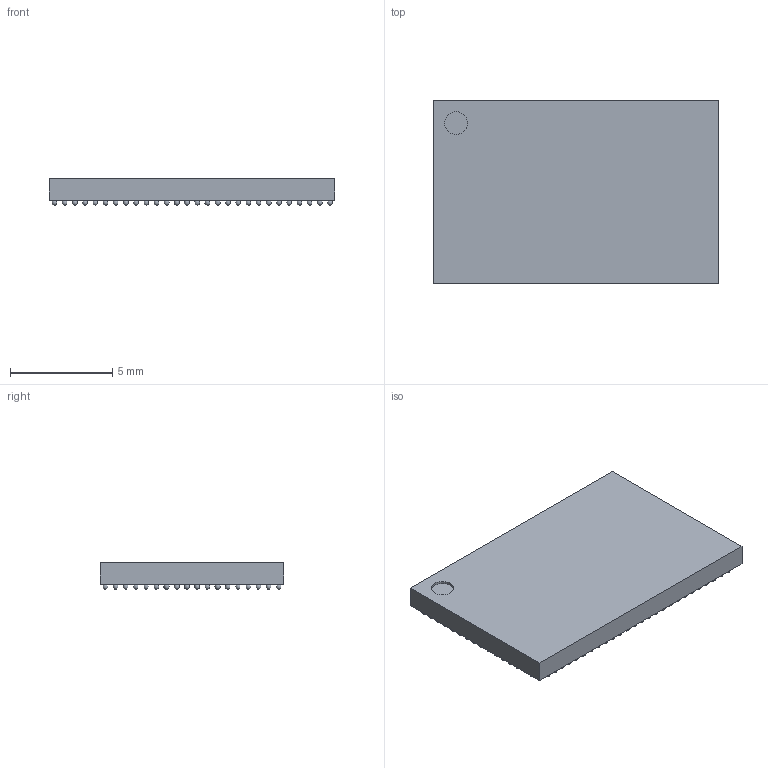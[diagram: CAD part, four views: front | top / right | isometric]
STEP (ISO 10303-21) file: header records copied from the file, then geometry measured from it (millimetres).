
FILE_DESCRIPTION(('FreeCAD Model'),'2;1');
FILE_NAME('/var/www/3D/0T/21391454.1.1.stp','2026-01-13T06:24:49',( 'Author'),(''),'Open CASCADE STEP processor 6.9','FreeCAD','Unknown' );
FILE_SCHEMA(('AUTOMOTIVE_DESIGN { 1 0 10303 214 1 1 1 1 }'));
Length unit declared in the file: millimetre
Products named in the file (502): ASSEMBLY; A2; A3; A4; A5; A6; A7; A8; A9; A10; A11; A12; A13; A14; A15; A16; A17; A18; A19; A20; A21; A22; A23; A24; A25; A26; A27; B1; B2; B3; B4; B5; B6; B7; B8; B9; B10; B11; B12; B13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
Assembly tree (501 placements, depth 2):
  ASSEMBLY
    A2
    A3
    A4
    A5
    A6
    A7
    A8
    A9
    A10
    A11
    A12
    A13
    A14
    A15
    A16
    A17
    A18
    A19
    A20
    A21
    A22
    A23
    A24
    A25
    A26
    A27
    B1
    B2
    B3
    B4
    B5
    B6
    B7
    B8
    B9
    B10
    B11
    B12
    B13
    B14
    B15
    B16
    B17
    B18
    B19
    B20
    B21
    B22
    B23
    B24
    B25
    B26
    B27
    B28
    C1
    C2
    C3
    C4
    C5
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Bounding box: 14 x 9 x 1.3 mm (x, y, z)
Volume: 136.3 mm3; surface area: 398.9 mm2
Topology: 501 solids, 501 shells, 508 faces, 1515 edges, 1010 vertices
Faces by surface type: sphere 500, plane 7, cylinder 1
Full cylindrical faces by diameter (mm): 1.125 x1
Entity records: 20436 total; most frequent: DIRECTION 2067, CARTESIAN_POINT 1565, AXIS2_PLACEMENT_3D 1012, PRODUCT_DEFINITION_SHAPE 1003, VERTEX_POINT 510, FACE_BOUND 509, ADVANCED_FACE 508, SHAPE_DEFINITION_REPRESENTATION 502
